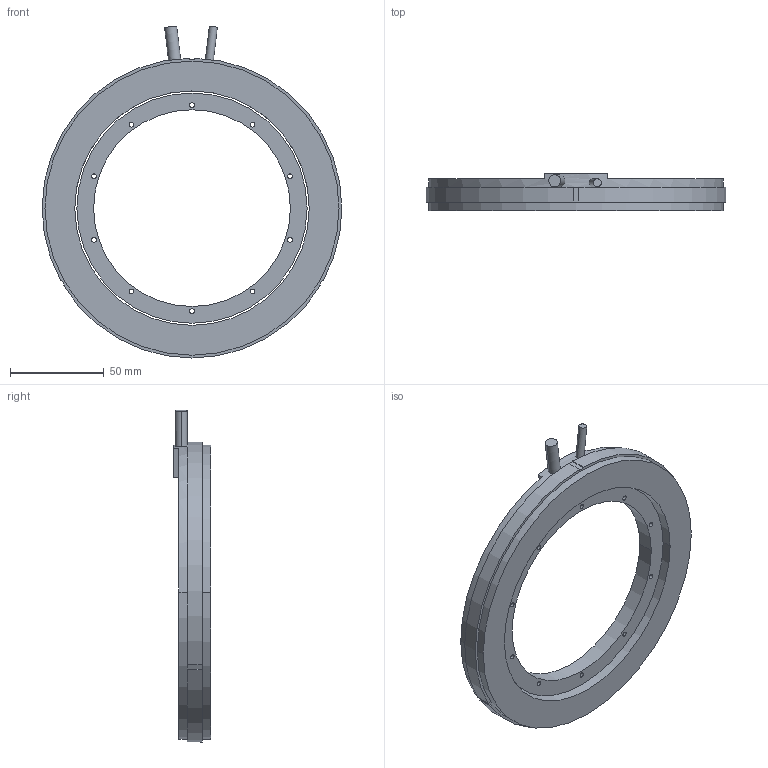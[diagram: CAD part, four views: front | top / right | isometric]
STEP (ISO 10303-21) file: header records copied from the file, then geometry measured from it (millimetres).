
FILE_DESCRIPTION (( 'STEP AP203' ), '1' );
FILE_NAME ('TMX160-17 3D.STEP', '2022-11-23T02:26:43', ( '' ), ( '' ), 'SwSTEP 2.0', 'SolidWorks 2021', '' );
FILE_SCHEMA (( 'CONFIG_CONTROL_DESIGN' ));
Length unit declared in the file: millimetre
Products named in the file (3): TMX160-17 KIT 3D; TM160-17 3D; TMX160-17 3D
Assembly tree (2 placements, depth 2):
  TMX160-17 3D
    TM160-17 3D
    TMX160-17 KIT 3D
Bounding box: 160 x 20 x 177.21 mm (x, y, z)
Volume: 155575.5 mm3; surface area: 44846.7 mm2
Topology: 2 solids, 2 shells, 58 faces, 153 edges, 102 vertices
Faces by surface type: cylinder 38, plane 20
Entity records: 2300 total; most frequent: CARTESIAN_POINT 440, DIRECTION 351, ORIENTED_EDGE 306, EDGE_CURVE 153, AXIS2_PLACEMENT_3D 139, VERTEX_POINT 102, EDGE_LOOP 85, CIRCLE 76
